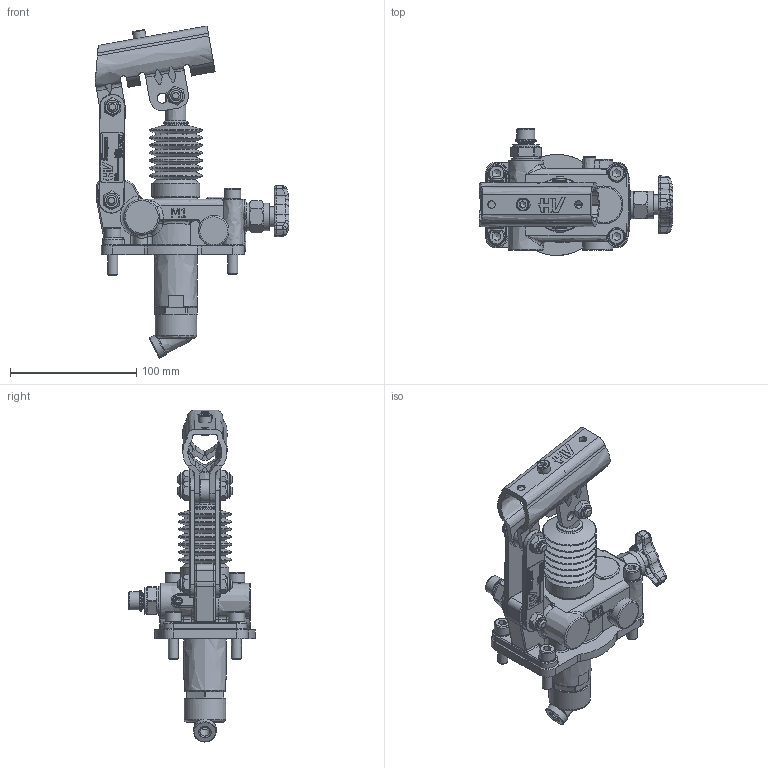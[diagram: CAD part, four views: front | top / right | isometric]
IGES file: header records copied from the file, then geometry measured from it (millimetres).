
Global section: file name: No Iges File Name specified; native system: Autodesk Inventor 2013; preprocessor: AutoDesk Inventor Iges Exporter R2013; author: christian.scardovi; date: 20240326.072710; units: millimetre
Bounding box: 153.43 x 100.49 x 263.06 mm (x, y, z)
Volume: 468797 mm3; surface area: 120770.1 mm2
Topology: 3 solids, 3 shells, 1697 faces, 4292 edges, 2687 vertices
Faces by surface type: bspline 1697
